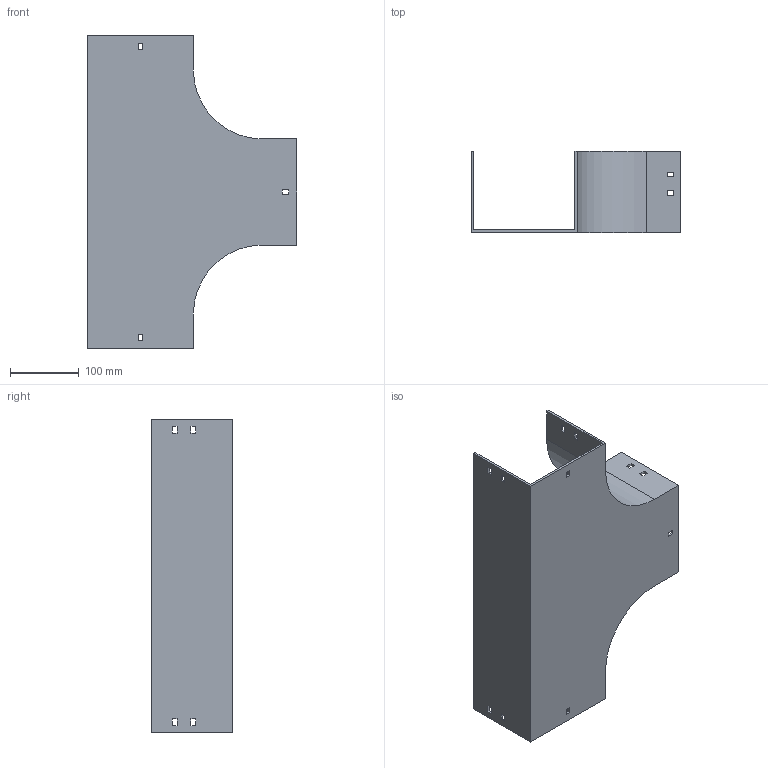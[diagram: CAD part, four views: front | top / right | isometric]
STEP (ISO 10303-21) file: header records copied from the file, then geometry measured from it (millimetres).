
FILE_DESCRIPTION (( 'STEP AP214' ), '1' );
FILE_NAME ('15B1J150.step', '2025-02-21T09:53:37', ( '' ), ( '' ), 'SwSTEP 2.0', 'SolidWorks 2023', '' );
FILE_SCHEMA (( 'AUTOMOTIVE_DESIGN' ));
Length unit declared in the file: millimetre
Products named in the file (1): 15B1J150
Bounding box: 304 x 117.5 x 454 mm (x, y, z)
Volume: 725513 mm3; surface area: 423731.9 mm2
Topology: 1 solids, 1 shells, 82 faces, 240 edges, 160 vertices
Faces by surface type: plane 78, cylinder 4
Entity records: 2755 total; most frequent: CARTESIAN_POINT 483, ORIENTED_EDGE 480, DIRECTION 414, EDGE_CURVE 240, LINE 232, VECTOR 232, VERTEX_POINT 160, EDGE_LOOP 112
